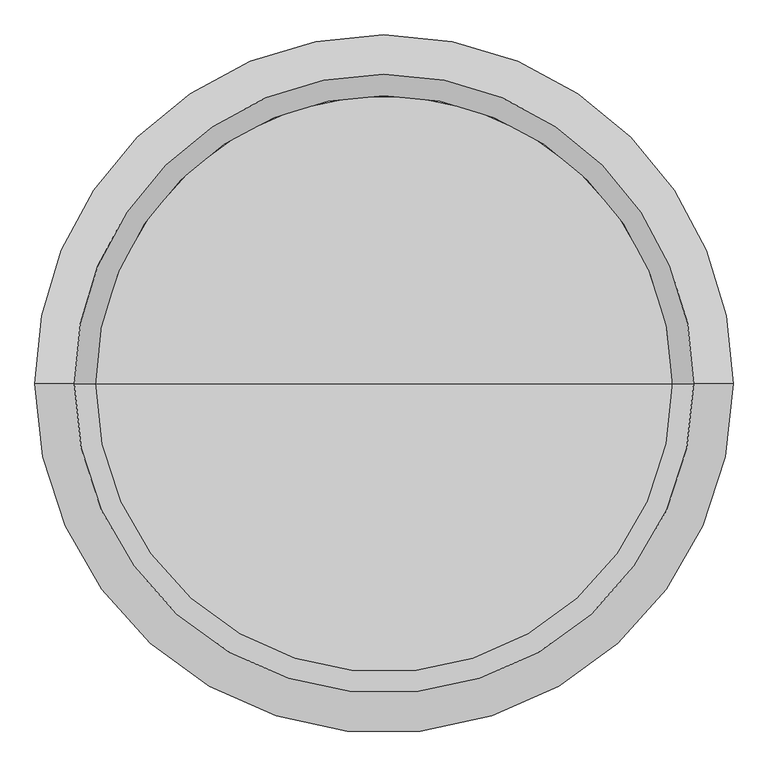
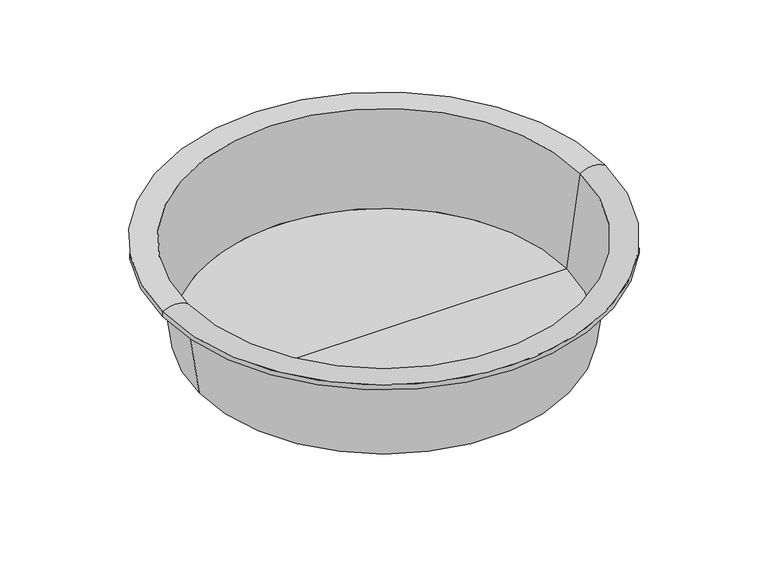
"""IFC4 building model written with IfcOpenShell, lengths in millimetres: furniture geometry, TINA : TINA."""

from ifc_helpers import new_model, si_unit, point, frame, origin, place, context, project, spatial, polyline, circle_curve, ellipse_curve, trimmed, source, transform, mapped, element, save
from ifc_brep_helpers import plane_surface, cylinder_surface, revolved_surface, advanced_brep


def furniture_993b5d31(model_context):
    return source(origin(), model_context, "Body", "AdvancedBrep", [
        advanced_brep(
        [(38767.6460545, 23960.3306913, 15010.0), (38024.3781597, 23960.3306913, 15010.0), (39510.9139494, 23960.3306913, 15010.0), (39519.6068167, 23960.3306913, 15000.0), (38015.6852924, 23960.3306913, 15000.0), (38767.6460545, 23960.3306913, 15000.0), (39573.0123339, 23960.3306913, 15380.0), (37962.2797752, 23960.3306913, 15380.0), (39667.6460545, 23960.3306913, 15380.0), (37867.6460545, 23960.3306913, 15380.0), (39667.6460545, 23960.3306913, 15400.2647744), (37867.6460545, 23960.3306913, 15400.2647744), (39565.7620865, 23960.3306913, 15400.2647744), (37969.5300226, 23960.3306913, 15400.2647744)],
        [
            (0, 1),
            (1, 2, circle_curve(frame((38767.6460545, 23960.3306913, 15010.0), z_axis=(0.0, 0.0, 1.0), x_axis=(-1.0, 0.0, 0.0)), 743.2678948)),
            (2, 0),
            (2, 1, circle_curve(frame((38767.6460545, 23960.3306913, 15010.0), z_axis=(0.0, 0.0, 1.0), x_axis=(-1.0, 0.0, 0.0)), 743.2678948)),
            (3, 4, circle_curve(frame((38767.6460545, 23960.3306913, 15000.0), z_axis=(0.0, 0.0, -1.0), x_axis=(-1.0, 0.0, 0.0)), 751.9607622)),
            (4, 5),
            (5, 3),
            (4, 3, circle_curve(frame((38767.6460545, 23960.3306913, 15000.0), z_axis=(0.0, 0.0, -1.0), x_axis=(-1.0, 0.0, 0.0)), 751.9607622)),
            (6, 7, circle_curve(frame((38767.6460545, 23960.3306913, 15380.0), z_axis=(0.0, 0.0, -1.0), x_axis=(-1.0, 0.0, 0.0)), 805.3662794)),
            (7, 4),
            (3, 6),
            (7, 6, circle_curve(frame((38767.6460545, 23960.3306913, 15380.0), z_axis=(0.0, 0.0, -1.0), x_axis=(-1.0, 0.0, 0.0)), 805.3662794)),
            (8, 9, circle_curve(frame((38767.6460545, 23960.3306913, 15380.0), z_axis=(0.0, 0.0, -1.0), x_axis=(-1.0, 0.0, 0.0)), 900.0)),
            (9, 7),
            (6, 8),
            (9, 8, circle_curve(frame((38767.6460545, 23960.3306913, 15380.0), z_axis=(0.0, 0.0, -1.0), x_axis=(-1.0, 0.0, 0.0)), 900.0)),
            (10, 11, circle_curve(frame((38767.6460545, 23960.3306913, 15400.2647744), z_axis=(0.0, 0.0, -1.0), x_axis=(-1.0, 0.0, 0.0)), 900.0)),
            (11, 9),
            (8, 10),
            (11, 10, circle_curve(frame((38767.6460545, 23960.3306913, 15400.2647744), z_axis=(0.0, 0.0, -1.0), x_axis=(-1.0, 0.0, 0.0)), 900.0)),
            (12, 13, circle_curve(frame((38767.6460545, 23960.3306913, 15400.2647744), z_axis=(0.0, 0.0, -1.0), x_axis=(-1.0, 0.0, 0.0)), 798.116032)),
            (13, 11, circle_curve(frame((37918.5880386, 23960.3306913, 15318.990252), z_axis=(0.0, -1.0, 0.0), x_axis=(1.0, 0.0, 0.0)), 95.9199339)),
            (10, 12, circle_curve(frame((39616.7040705, 23960.3306913, 15318.990252), z_axis=(0.0, -1.0, 0.0), x_axis=(-1.0, 0.0, 0.0)), 95.9199339)),
            (13, 12, circle_curve(frame((38767.6460545, 23960.3306913, 15400.2647744), z_axis=(0.0, 0.0, -1.0), x_axis=(-1.0, 0.0, 0.0)), 798.116032)),
            (1, 13),
            (12, 2),
        ],
        [
            plane_surface(frame((38767.6460545, 23960.3306913, 15010.0), z_axis=(0.0, 0.0, 1.0), x_axis=(-1.0, 0.0, 0.0))),
            plane_surface(frame((38767.6460545, 23960.3306913, 15000.0), z_axis=(0.0, 0.0, -1.0), x_axis=(-1.0, 0.0, 0.0))),
            revolved_surface(polyline([(38015.6852924, 23960.3306913, 15000.0), (37962.2797752, 23960.3306913, 15380.0)]), (38767.6460545, 23960.3306913, 15000.0), (0.0, 0.0, 1.0)),
            plane_surface(frame((38767.6460545, 23960.3306913, 15380.0), z_axis=(0.0, 0.0, -1.0), x_axis=(-1.0, 0.0, 0.0))),
            cylinder_surface(frame((38767.6460545, 23960.3306913, 15000.0), z_axis=(0.0, 0.0, 1.0), x_axis=(-1.0, 0.0, 0.0)), 900.0),
            revolved_surface(trimmed(ellipse_curve(frame((37918.5880386, 23960.3306913, 15318.990252), z_axis=(0.0, 1.0, 0.0), x_axis=(1.0, 0.0, 0.0)), 95.9199339, 95.9199339), [point((37867.6460545, 23960.3306913, 15400.2647744))], [point((37969.5300226, 23960.3306913, 15400.2647744))], True, "CARTESIAN"), (38767.6460545, 23960.3306913, 15000.0), (0.0, 0.0, 1.0)),
            revolved_surface(polyline([(37969.5300226, 23960.3306913, 15400.2647744), (38024.3781597, 23960.3306913, 15010.0)]), (38767.6460545, 23960.3306913, 15000.0), (0.0, 0.0, 1.0)),
        ],
        [
            (0, [[1, 2, 3]]),
            (0, [[-3, 4, -1]]),
            (1, [[5, 6, 7]]),
            (1, [[8, -7, -6]]),
            (2, [[9, 10, -5, 11]]),
            (2, [[12, -11, -8, -10]]),
            (3, [[13, 14, -9, 15]]),
            (3, [[16, -15, -12, -14]]),
            (4, [[17, 18, -13, 19]]),
            (4, [[20, -19, -16, -18]]),
            (5, [[21, 22, -17, 23]]),
            (5, [[24, -23, -20, -22]]),
            (6, [[-2, 25, -21, 26]]),
            (6, [[-4, -26, -24, -25]]),
        ],
    ),
    ])


if __name__ == "__main__":
    model = new_model("IFC4")
    model_context = context("Model", 3, world=origin())
    ifc_project = project(units=[si_unit("LENGTHUNIT", "METRE", prefix="MILLI")], contexts=[model_context])
    site = spatial("IfcSite", under=ifc_project)
    building = spatial("IfcBuilding", under=site)
    placement = place(None, origin())
    furniture_shape = furniture_993b5d31(model_context)
    element("IfcFurniture", 1, ObjectType="TINA : TINA", at=placement, inside=building, context=model_context, shape_type="MappedRepresentation", body=[
        mapped(furniture_shape, transform((0.0, 0.0, 0.0), x_axis=(1.0, 0.0, 0.0), y_axis=(0.0, 1.0, 0.0), z_axis=(0.0, 0.0, 1.0))),
    ])
    save(model, "model.ifc")
